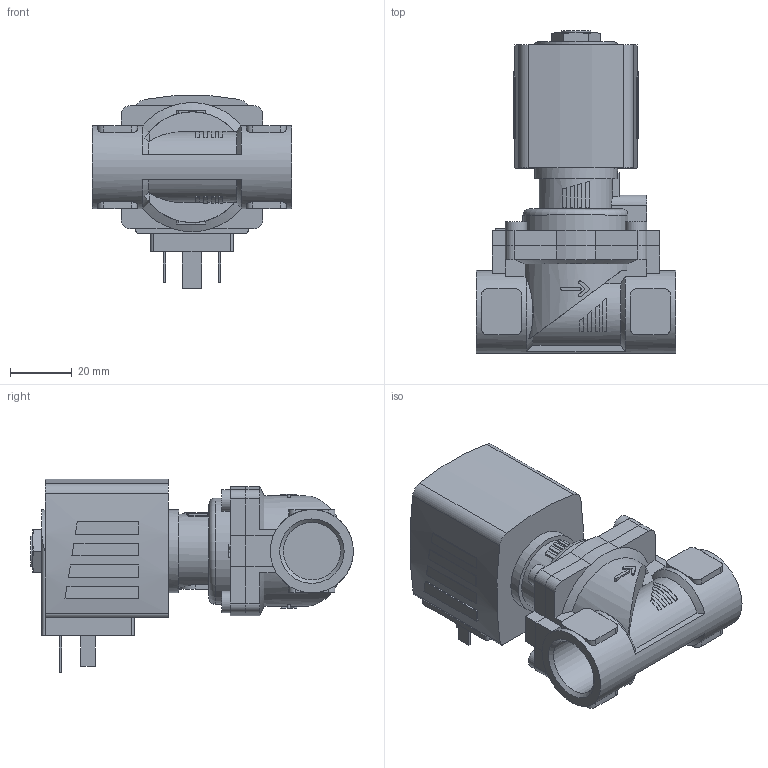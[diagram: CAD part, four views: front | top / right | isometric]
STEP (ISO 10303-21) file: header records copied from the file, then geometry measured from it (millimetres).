
FILE_DESCRIPTION(/* description */ ('STEP AP214'),/* implementation_level */ '2;1');
FILE_NAME(/* name */ '6281-277051-2_2-Way_Solenoid_Valve__Servo-assisted__General_Purpose',/* time_stamp */ '2024-06-21T15:08:02+02:00',/* author */ ('License CC BY-ND 4.0'),/* organization */ ('CADENAS'),/* preprocessor_version */ 'ST-DEVELOPER v19.3',/* originating_system */ 'PARTsolutions',/* authorisation */ ' ');
FILE_SCHEMA (('AUTOMOTIVE_DESIGN {1 0 10303 214 3 1 1}'));
Length unit declared in the file: millimetre
Products named in the file (4): 6281-277051-2/2-Way Solenoid Valve, Servo-assisted, General Purpose; 5281ev130VA2/2-Wege-Magnetventil mit Servomembran-Deckel 42 ; 6213-13G1/2VA-Gehaeuse-; AC10ex-6NA38-Plan-Coil
Assembly tree (3 placements, depth 2):
  6281-277051-2/2-Way Solenoid Valve, Servo-assisted, General Purpose
    5281ev130VA2/2-Wege-Magnetventil mit Servomembran-Deckel 42 
    6213-13G1/2VA-Gehaeuse-
    AC10ex-6NA38-Plan-Coil
Bounding box: 65 x 105 x 62.83 mm (x, y, z)
Volume: 140758.9 mm3; surface area: 31431.8 mm2
Topology: 3 solids, 3 shells, 349 faces, 882 edges, 576 vertices
Faces by surface type: plane 242, cylinder 91, cone 15, torus 1
Full cylindrical faces by diameter (mm): 2.013 x1, 7 x4, 9.74 x1, 18.631 x2, 27 x2
Entity records: 11807 total; most frequent: CARTESIAN_POINT 2051, DIRECTION 1758, ORIENTED_EDGE 1720, EDGE_CURVE 860, AXIS2_PLACEMENT_3D 616, VERTEX_POINT 570, LINE 526, VECTOR 526
